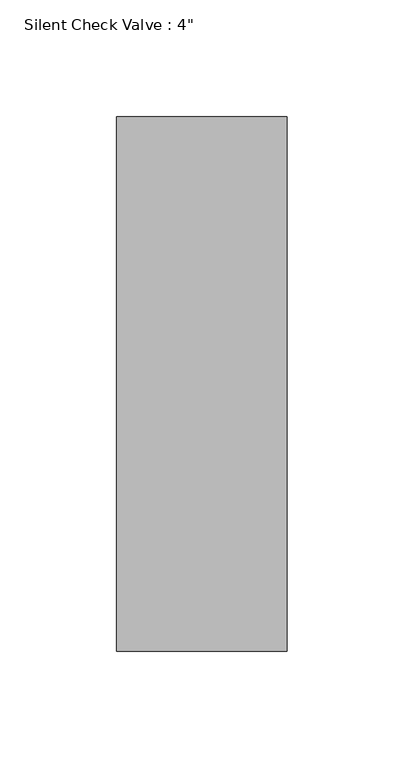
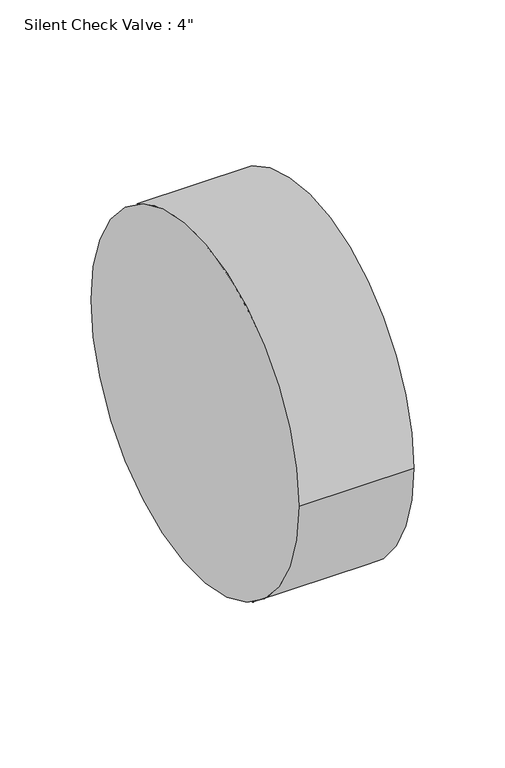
"""IFC4 building model written with IfcOpenShell, lengths in millimetres: valve geometry."""

from ifc_helpers import new_model, si_unit, point, frame, origin, origin_2d, place, context, project, spatial, circle_curve, trimmed, segment, composite_curve, outline, extrude, source, transform, mapped, element, save


def valve_b36e1e88(model_context):
    return source(origin(), model_context, "Body", "SweptSolid", [
        extrude(outline(composite_curve([segment(trimmed(circle_curve(origin_2d(), 114.3), [point((-114.3, 0.0))], [point((114.3, 0.0))], False, "CARTESIAN"), True, "CONTINUOUS"), segment(trimmed(circle_curve(origin_2d(), 114.3), [point((114.3, 0.0))], [point((-114.3, 0.0))], False, "CARTESIAN"), True, "CONTINUOUS")], self_intersect=False)), frame((-36.5125, 0.0, 0.0), z_axis=(1.0, 0.0, 0.0), x_axis=(0.0, 1.0, 0.0)), (0.0, 0.0, 1.0), 73.025),
    ])


if __name__ == "__main__":
    model = new_model("IFC4")
    model_context = context("Model", 3, world=origin())
    ifc_project = project(units=[si_unit("LENGTHUNIT", "METRE", prefix="MILLI")], contexts=[model_context])
    site = spatial("IfcSite", under=ifc_project)
    building = spatial("IfcBuilding", under=site)
    placement = place(None, origin())
    valve_shape = valve_b36e1e88(model_context)
    element("IfcValve", 1, ObjectType="Silent Check Valve : 4\"", at=placement, inside=building, context=model_context, shape_type="MappedRepresentation", body=[
        mapped(valve_shape, transform((0.0, 0.0, 0.0), x_axis=(1.0, 0.0, 0.0), y_axis=(0.0, 1.0, 0.0), z_axis=(0.0, 0.0, 1.0))),
    ])
    save(model, "model.ifc")
